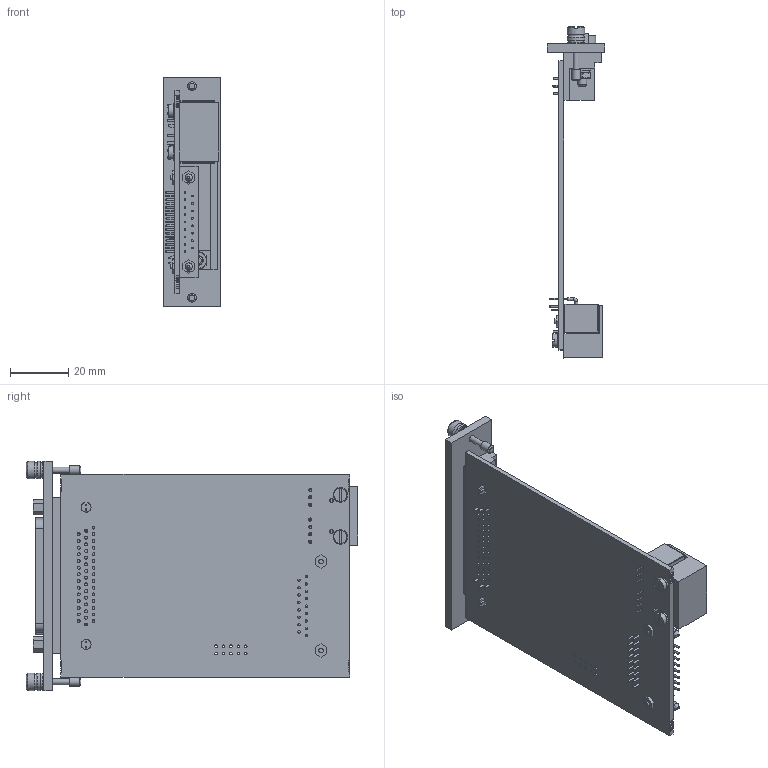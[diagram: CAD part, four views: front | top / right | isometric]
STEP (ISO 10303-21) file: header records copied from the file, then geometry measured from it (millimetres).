
FILE_DESCRIPTION(('STEP AP203'), '1');
FILE_NAME('ÊÌÍÒ.468153.014 ÌîäóëüÒÍ3_À429_301', '', ('UNSPECIFIED'), ('UNSPECIFIED'), 'C3D Converter', 'C3D Toolkit', '');
FILE_SCHEMA(('CONFIG_CONTROL_DESIGN'));
Length unit declared in the file: millimetre
Products named in the file (1): КМНТ.468153.014
Bounding box: 19.6 x 113.69 x 78.5 mm (x, y, z)
Volume: 30268.1 mm3; surface area: 27197.6 mm2
Topology: 1 solids, 1 shells, 1386 faces, 3869 edges, 2535 vertices
Faces by surface type: cylinder 705, plane 586, cone 40, sphere 36, torus 19
Full cylindrical faces by diameter (mm): 0.6 x43, 0.7 x12, 0.8 x17, 0.9 x10, 1 x61, 1.1 x7, 1.4 x2, 1.6 x2, 2 x2, 2.362 x2, 2.459 x2, 2.49 x2, 3 x2, 3.175 x4, 3.2 x4, 3.4 x2, 4.5 x2, 5 x2, 6 x8
Entity records: 57474 total; most frequent: CARTESIAN_POINT 10273, DIRECTION 7811, ORIENTED_EDGE 7164, EDGE_CURVE 3582, AXIS2_PLACEMENT_3D 2947, VERTEX_POINT 2520, LINE 1917, VECTOR 1917
